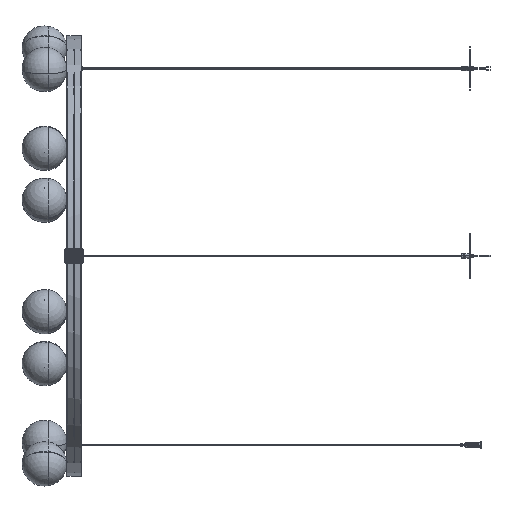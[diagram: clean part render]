
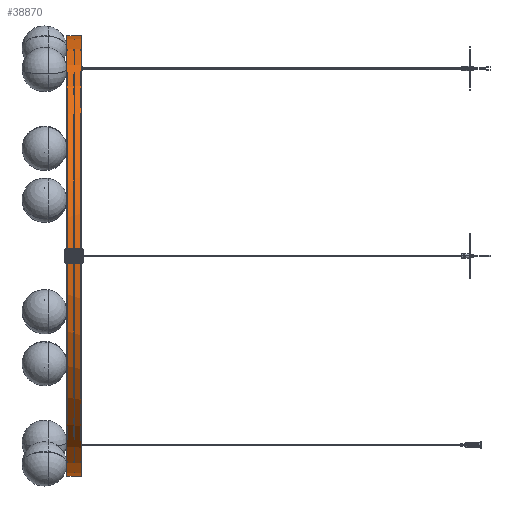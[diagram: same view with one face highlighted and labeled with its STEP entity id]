
A CAD part, front view. The second image highlights one B-rep face of the part: STEP entity #38870.
In plain terms, the highlighted cylindrical face has radius 447.7 mm (diameter 895.4 mm), a partial arc.
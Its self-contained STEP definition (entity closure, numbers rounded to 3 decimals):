
#1539 = DIRECTION ( 'NONE',  ( 1., 0., 0. ) ) ;
#1970 = EDGE_CURVE ( 'NONE', #36380, #27824, #13849, .T. ) ;
#2620 = AXIS2_PLACEMENT_3D ( 'NONE', #38524, #1539, #48791 ) ;
#3621 = CARTESIAN_POINT ( 'NONE',  ( 14.7, 447.7, 447.7 ) ) ;
#4544 = CARTESIAN_POINT ( 'NONE',  ( 0., 447.7, -447.7 ) ) ;
#4760 = VERTEX_POINT ( 'NONE', #29874 ) ;
#7216 = CARTESIAN_POINT ( 'NONE',  ( 14.7, 447.7, 0. ) ) ;
#8550 = CARTESIAN_POINT ( 'NONE',  ( -14.7, 447.7, 447.7 ) ) ;
#9758 = EDGE_CURVE ( 'NONE', #31954, #27998, #36568, .T. ) ;
#11422 = DIRECTION ( 'NONE',  ( 0., 0., -1. ) ) ;
#12168 = DIRECTION ( 'NONE',  ( 1., 0., 0. ) ) ;
#12747 = ORIENTED_EDGE ( 'NONE', *, *, #45607, .T. ) ;
#13849 = LINE ( 'NONE', #4544, #15244 ) ;
#15244 = VECTOR ( 'NONE', #19106, 1000. ) ;
#17095 = ORIENTED_EDGE ( 'NONE', *, *, #19511, .F. ) ;
#19106 = DIRECTION ( 'NONE',  ( 1., 0., 0. ) ) ;
#19511 = EDGE_CURVE ( 'NONE', #58810, #27824, #58072, .T. ) ;
#21995 = AXIS2_PLACEMENT_3D ( 'NONE', #49657, #27232, #36842 ) ;
#24196 = EDGE_CURVE ( 'NONE', #27998, #4760, #55333, .T. ) ;
#27232 = DIRECTION ( 'NONE',  ( 1., 0., 0. ) ) ;
#27824 = VERTEX_POINT ( 'NONE', #49974 ) ;
#27998 = VERTEX_POINT ( 'NONE', #3621 ) ;
#28565 = CARTESIAN_POINT ( 'NONE',  ( 14.7, 0.118, 10.281 ) ) ;
#29497 = CARTESIAN_POINT ( 'NONE',  ( 14.7, 0.14, -11.205 ) ) ;
#29874 = CARTESIAN_POINT ( 'NONE',  ( 14.7, 0.118, 10.281 ) ) ;
#31954 = VERTEX_POINT ( 'NONE', #8550 ) ;
#33250 = CARTESIAN_POINT ( 'NONE',  ( 14.7, 0.14, -11.205 ) ) ;
#35375 = CIRCLE ( 'NONE', #2620, 447.7 ) ;
#35624 = ORIENTED_EDGE ( 'NONE', *, *, #9758, .F. ) ;
#36380 = VERTEX_POINT ( 'NONE', #46212 ) ;
#36568 = LINE ( 'NONE', #37190, #54399 ) ;
#36842 = DIRECTION ( 'NONE',  ( 0., 0., -1. ) ) ;
#37190 = CARTESIAN_POINT ( 'NONE',  ( 0., 447.7, 447.7 ) ) ;
#38524 = CARTESIAN_POINT ( 'NONE',  ( -14.7, 447.7, 0. ) ) ;
#38870 = ADVANCED_FACE ( 'NONE', ( #50885 ), #60555, .T. ) ;
#39152 = AXIS2_PLACEMENT_3D ( 'NONE', #49670, #44697, #11422 ) ;
#39257 = ORIENTED_EDGE ( 'NONE', *, *, #24196, .F. ) ;
#41366 =( BOUNDED_CURVE ( )  B_SPLINE_CURVE ( 3, ( #33250, #43795, #61583, #28565 ),
 .UNSPECIFIED., .F., .F. ) 
 B_SPLINE_CURVE_WITH_KNOTS ( ( 4, 4 ),
 ( 3.118, 3.166 ),
 .UNSPECIFIED. ) 
 CURVE ( )  GEOMETRIC_REPRESENTATION_ITEM ( )  RATIONAL_B_SPLINE_CURVE ( ( 1., 1., 1., 1. ) ) 
 REPRESENTATION_ITEM ( '' )  );
#42581 = EDGE_LOOP ( 'NONE', ( #35624, #12747, #50584, #17095, #56944, #39257 ) ) ;
#43795 = CARTESIAN_POINT ( 'NONE',  ( 11.557, -0.039, -4.044 ) ) ;
#44436 = AXIS2_PLACEMENT_3D ( 'NONE', #7216, #12168, #54816 ) ;
#44697 = DIRECTION ( 'NONE',  ( 1., 0., 0. ) ) ;
#45607 = EDGE_CURVE ( 'NONE', #31954, #36380, #35375, .T. ) ;
#46212 = CARTESIAN_POINT ( 'NONE',  ( -14.7, 447.7, -447.7 ) ) ;
#48791 = DIRECTION ( 'NONE',  ( 0., 0., -1. ) ) ;
#49657 = CARTESIAN_POINT ( 'NONE',  ( 0., 447.7, 0. ) ) ;
#49670 = CARTESIAN_POINT ( 'NONE',  ( 14.7, 447.7, 0. ) ) ;
#49974 = CARTESIAN_POINT ( 'NONE',  ( 14.7, 447.7, -447.7 ) ) ;
#50584 = ORIENTED_EDGE ( 'NONE', *, *, #1970, .T. ) ;
#50607 = DIRECTION ( 'NONE',  ( 1., 0., 0. ) ) ;
#50885 = FACE_OUTER_BOUND ( 'NONE', #42581, .T. ) ;
#54399 = VECTOR ( 'NONE', #50607, 1000. ) ;
#54816 = DIRECTION ( 'NONE',  ( 0., 0., -1. ) ) ;
#55333 = CIRCLE ( 'NONE', #44436, 447.7 ) ;
#56944 = ORIENTED_EDGE ( 'NONE', *, *, #57948, .T. ) ;
#57948 = EDGE_CURVE ( 'NONE', #58810, #4760, #41366, .T. ) ;
#58072 = CIRCLE ( 'NONE', #39152, 447.7 ) ;
#58810 = VERTEX_POINT ( 'NONE', #29497 ) ;
#60555 = CYLINDRICAL_SURFACE ( 'NONE', #21995, 447.7 ) ;
#61583 = CARTESIAN_POINT ( 'NONE',  ( 11.557, -0.046, 3.119 ) ) ;
